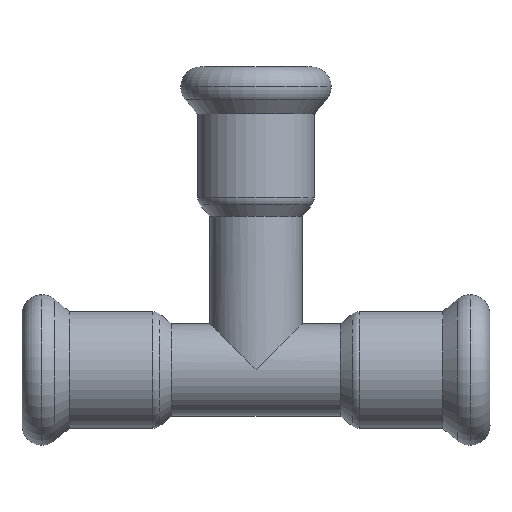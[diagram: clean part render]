
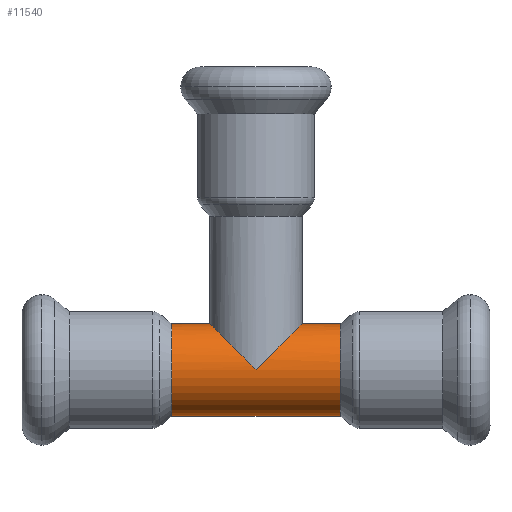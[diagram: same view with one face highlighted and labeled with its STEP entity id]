
A CAD part, top view. The second image highlights one B-rep face of the part: STEP entity #11540.
In plain terms, the highlighted cylindrical face has radius 6 mm (diameter 12 mm), a partial arc.
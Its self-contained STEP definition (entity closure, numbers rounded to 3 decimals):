
#5260=CARTESIAN_POINT('',(-109.071,16.74,0.));
#5270=DIRECTION('',(-1.,0.,0.));
#5280=DIRECTION('',(0.,-1.,0.));
#5290=AXIS2_PLACEMENT_3D('',#5260,#5270,#5280);
#5300=CYLINDRICAL_SURFACE('',#5290,6.);
#5310=CARTESIAN_POINT('',(-109.071,22.74,
0.));
#5320=DIRECTION('',(-1.,0.,0.));
#5330=VECTOR('',#5320,1.);
#5340=LINE('',#5310,#5330);
#5350=CARTESIAN_POINT('',(-87.071,22.74,
0.));
#5360=VERTEX_POINT('',#5350);
#5370=CARTESIAN_POINT('',(-92.071,22.74,
0.));
#5380=VERTEX_POINT('',#5370);
#5390=EDGE_CURVE('',#5360,#5380,#5340,.T.);
#5410=CARTESIAN_POINT('',(-98.071,16.74,0.));
#5420=DIRECTION('',(-0.707,0.707,0.));
#5430=DIRECTION('',(0.707,0.707,0.));
#5440=AXIS2_PLACEMENT_3D('',#5410,#5420,#5430);
#5450=ELLIPSE('',#5440,8.485,6.);
#5500=CARTESIAN_POINT('',(-98.071,16.74,0.));
#5510=DIRECTION('',(0.707,0.707,0.));
#5520=DIRECTION('',(-0.707,0.707,0.));
#5530=AXIS2_PLACEMENT_3D('',#5500,#5510,#5520);
#5540=ELLIPSE('',#5530,8.485,6.);
#5550=CARTESIAN_POINT('',(-104.071,22.74,
0.));
#5560=VERTEX_POINT('',#5550);
#5590=CARTESIAN_POINT('',(-109.071,22.74,
0.));
#5600=VERTEX_POINT('',#5590);
#5610=EDGE_CURVE('',#5560,#5600,#5340,.T.);
#5630=CARTESIAN_POINT('',(-109.071,16.74,0.));
#5640=DIRECTION('',(-1.,0.,0.));
#5650=DIRECTION('',(0.,-1.,0.));
#5660=AXIS2_PLACEMENT_3D('',#5630,#5640,#5650);
#5670=CIRCLE('',#5660,6.);
#5680=CARTESIAN_POINT('',(-109.071,10.74,0.));
#5690=VERTEX_POINT('',#5680);
#5720=CARTESIAN_POINT('',(-109.071,10.74,0.));
#5730=DIRECTION('',(-1.,0.,0.));
#5740=VECTOR('',#5730,1.);
#5750=LINE('',#5720,#5740);
#5760=CARTESIAN_POINT('',(-87.071,10.74,0.));
#5770=VERTEX_POINT('',#5760);
#5780=EDGE_CURVE('',#5770,#5690,#5750,.T.);
#5800=CARTESIAN_POINT('',(-87.071,16.74,0.));
#5810=DIRECTION('',(-1.,0.,0.));
#5820=DIRECTION('',(0.,-1.,0.));
#5830=AXIS2_PLACEMENT_3D('',#5800,#5810,#5820);
#5840=CIRCLE('',#5830,6.);
#6500=CARTESIAN_POINT('',(-98.071,16.74,6.));
#6510=VERTEX_POINT('',#6500);
#6520=EDGE_CURVE('',#6510,#5380,#5450,.T.);
#6540=EDGE_CURVE('',#5560,#6510,#5540,.T.);
#11430=ORIENTED_EDGE('',*,*,#6520,.F.);
#11440=ORIENTED_EDGE('',*,*,#5390,.T.);
#11450=EDGE_CURVE('',#5770,#5360,#5840,.T.);
#11460=ORIENTED_EDGE('',*,*,#11450,.T.);
#11470=ORIENTED_EDGE('',*,*,#5780,.F.);
#11480=EDGE_CURVE('',#5690,#5600,#5670,.T.);
#11490=ORIENTED_EDGE('',*,*,#11480,.F.);
#11500=ORIENTED_EDGE('',*,*,#5610,.T.);
#11510=ORIENTED_EDGE('',*,*,#6540,.F.);
#11520=EDGE_LOOP('',(#11510,#11500,#11490,#11470,#11460,#11440,#11430));
#11530=FACE_OUTER_BOUND('',#11520,.T.);
#11540=ADVANCED_FACE('',(#11530),#5300,.T.);
